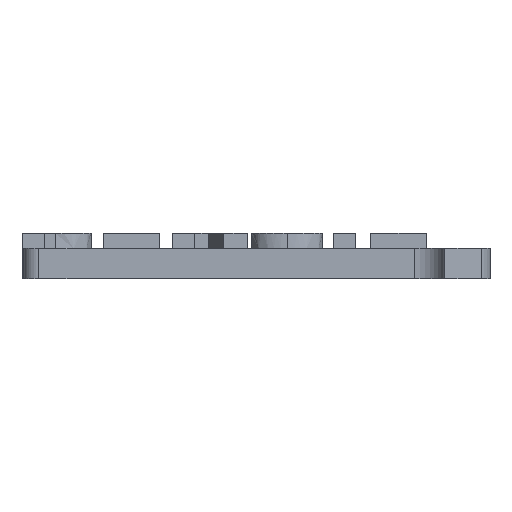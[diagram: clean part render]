
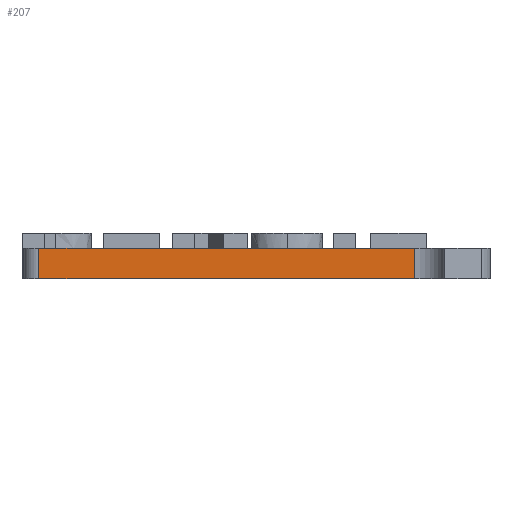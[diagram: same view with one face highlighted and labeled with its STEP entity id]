
A CAD part, front view. The second image highlights one B-rep face of the part: STEP entity #207.
In plain terms, the highlighted planar face has unit normal (0, -1, 0).
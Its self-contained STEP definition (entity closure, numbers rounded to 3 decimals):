
#207=ADVANCED_FACE('',(#444),#445,.T.);
#444=FACE_OUTER_BOUND('',#718,.T.);
#445=PLANE('',#719);
#718=EDGE_LOOP('',(#1355,#1356,#1357,#1358));
#719=AXIS2_PLACEMENT_3D('',#1359,#1360,#1361);
#1355=ORIENTED_EDGE('',*,*,#1991,.T.);
#1356=ORIENTED_EDGE('',*,*,#2038,.T.);
#1357=ORIENTED_EDGE('',*,*,#2027,.F.);
#1358=ORIENTED_EDGE('',*,*,#2039,.T.);
#1359=CARTESIAN_POINT('',(-17.0,-3.0,0.0));
#1360=DIRECTION('',(0.,-1.0,0.0));
#1361=DIRECTION('',(1.0,0.,0.0));
#1991=EDGE_CURVE('',#2455,#2453,#2456,.T.);
#2027=EDGE_CURVE('',#2517,#2519,#2520,.T.);
#2038=EDGE_CURVE('',#2453,#2519,#2536,.T.);
#2039=EDGE_CURVE('',#2517,#2455,#2537,.F.);
#2453=VERTEX_POINT('',#3203);
#2455=VERTEX_POINT('',#3205);
#2456=LINE('',#3206,#3207);
#2517=VERTEX_POINT('',#3319);
#2519=VERTEX_POINT('',#3321);
#2520=LINE('',#3322,#3323);
#2536=LINE('',#3344,#3345);
#2537=LINE('',#3346,#3347);
#3203=CARTESIAN_POINT('',(-5.0,-3.0,0.0));
#3205=CARTESIAN_POINT('',(-30.0,-3.0,0.0));
#3206=CARTESIAN_POINT('',(-17.0,-3.0,0.0));
#3207=VECTOR('',#3700,1.0);
#3319=CARTESIAN_POINT('',(-30.0,-3.0,2.0));
#3321=CARTESIAN_POINT('',(-5.0,-3.0,2.0));
#3322=CARTESIAN_POINT('',(-17.0,-3.0,2.0));
#3323=VECTOR('',#3732,1.0);
#3344=CARTESIAN_POINT('',(-5.0,-3.0,2.0));
#3345=VECTOR('',#3747,1.0);
#3346=CARTESIAN_POINT('',(-30.0,-3.0,0.0));
#3347=VECTOR('',#3748,1.0);
#3700=DIRECTION('',(1.0,0.,0.0));
#3732=DIRECTION('',(1.0,0.,0.0));
#3747=DIRECTION('',(0.0,0.0,1.0));
#3748=DIRECTION('',(0.0,0.0,1.0));
